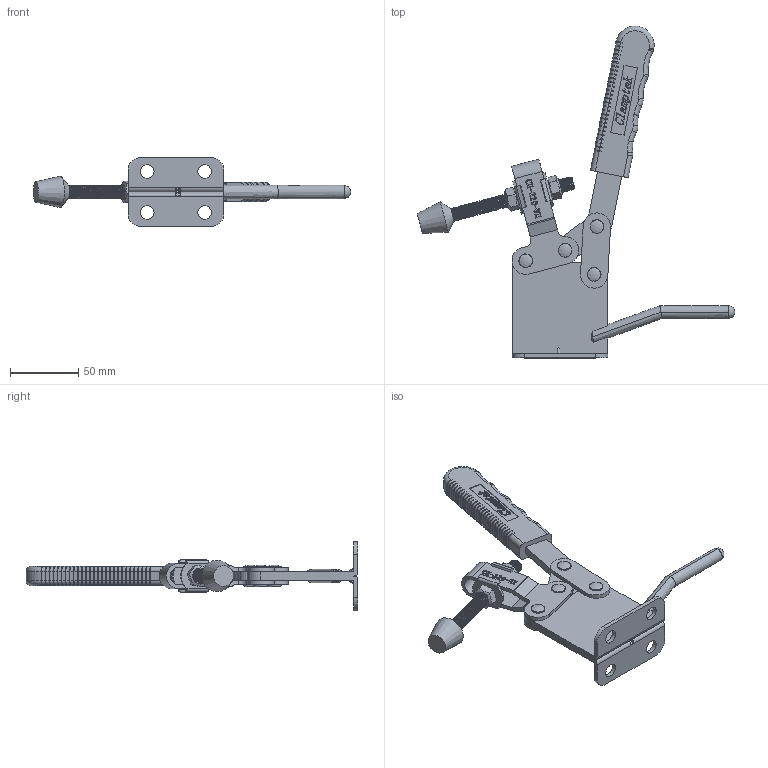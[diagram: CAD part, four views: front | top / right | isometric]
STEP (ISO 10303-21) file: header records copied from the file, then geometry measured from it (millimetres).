
FILE_DESCRIPTION(/* description */ ('STEP AP203'),/* implementation_level */ '2;1');
FILE_NAME(/* name */ 'E:\STRONA\Horizontal toggle clamp\CH-220-WH\CH-220-WH_OTWARTY.stp',/* time_stamp */ '2019-01-14T14:25:21+01:00',/* author */ ('Admin'),/* organization */ ('Î¢ÈíÖÐ¹ú'),/* preprocessor_version */ 'ST-DEVELOPER v17.2',/* originating_system */ 'Autodesk Inventor 2019',/* authorisation */ '');
FILE_SCHEMA (('AUTOMOTIVE_DESIGN { 1 0 10303 214 3 1 1 }'));
Products named in the file (10): CH-220-WH_OTWARTY; 220-WH-02; 200-W-03; 200-W-04; 200-W-05; 220-WLH-01-05_Ä¬ÈÏ_°´¼Ó
¹¤_; 38312-01; 200-W-06; 38412; FW380
Assembly tree (15 placements, depth 2):
  CH-220-WH_OTWARTY
    200-W-05  x4
    FW380  x2
    220-WH-02
    200-W-04  x2
    200-W-03
    38312-01  x2
    220-WLH-01-05_Ä¬ÈÏ_°´¼Ó
¹¤_
    200-W-06
    38412
Bounding box: 231.95 x 242.5 x 50 mm (x, y, z)
Volume: 128102.6 mm3; surface area: 70562.1 mm2
Topology: 15 solids, 16 shells, 1419 faces, 3807 edges, 2474 vertices
Faces by surface type: plane 624, bspline 348, cylinder 303, torus 92, cone 41, sphere 11
Full cylindrical faces by diameter (mm): 3 x1, 4 x1, 5 x4, 6.3 x4, 6.4 x12, 9.5 x60, 9.8 x2, 10 x12, 13.856 x1
Entity records: 87330 total; most frequent: CARTESIAN_POINT 55953, ORIENTED_EDGE 7112, DIRECTION 5302, EDGE_CURVE 3556, VERTEX_POINT 2301, LINE 2098, VECTOR 2098, AXIS2_PLACEMENT_3D 1602
